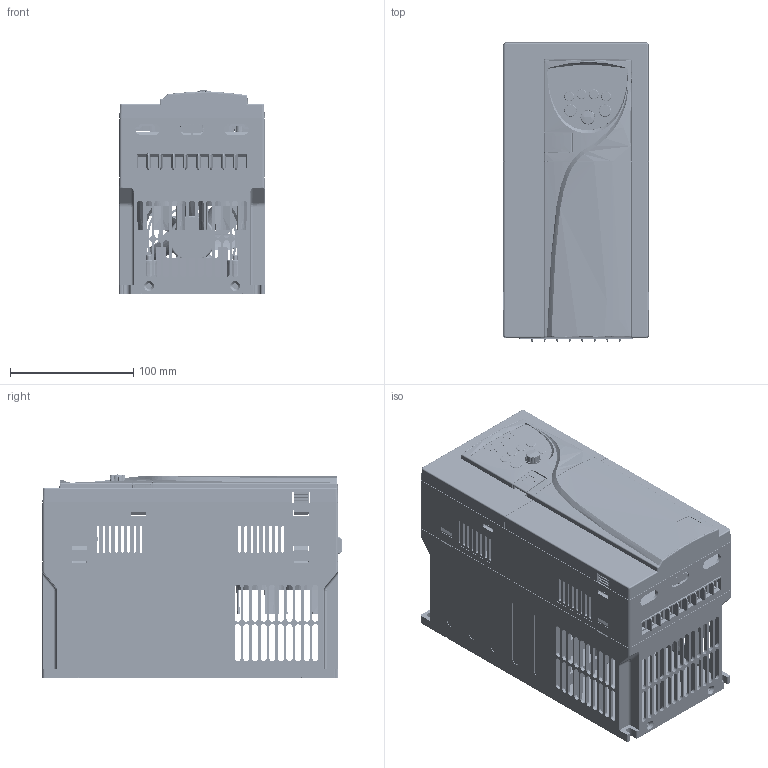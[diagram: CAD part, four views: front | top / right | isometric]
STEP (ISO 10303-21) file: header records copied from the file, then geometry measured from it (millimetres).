
FILE_DESCRIPTION(('STEP AP203'), '1');
FILE_NAME('Ïðåîáðàçîâàòåëü ÷àñòîòû _ INVENT-G15-4B', '', ('UNSPECIFIED'), ('UNSPECIFIED'), 'C3D Converter', 'C3D Toolkit', '');
FILE_SCHEMA(('CONFIG_CONTROL_DESIGN'));
Length unit declared in the file: millimetre
Products named in the file (47): Преобразователь частоты _ INVENT-G15-4B; Корпус B1; Вентилятор 80х80х25; Крышка вентилятора B1; Плата силовая B1; Основа платы силовой B1; Коннектор 22PL EEX 2x11x2.54x41; EU10-09-10.16-01; EU10-09-10.16-01_5; EU10-09-10.16-01_2; EU10-09-10.16-01_8; EU10-09-10.16-01_6; EU10-09-10.16-01_4; EU10-09-10.16-01_1; EU10-09-10.16-01_7; EU10-09-10.16-01_3; Стойка M3х41+6; Стойка М4х22+6; Корпус УМ B1; Днище; Плата управления; Основа платы управления; RL508-15A-8P; RL508-15A-3P; Клемма 4x4.8x10; Зажим 4x4.8x10_1; Контакт 4x4.8x10; Клемма 4x4.8x19; Зажим 4x4.8x19; Контакт 4x4.8x19_1; RL508-15A-2P; WH09-103-15; RJ45-8; 26PL; Дисплей; Jumper; HF46F; 6x6x83; Крышка B1; Крышка корпуса B1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
Assembly tree (64 placements, depth 6):
  Преобразователь частоты _ INVENT-G15-4B
    Корпус B1
    Вентилятор 80х80х25
    Крышка вентилятора B1
    Плата силовая B1
      Основа платы силовой B1
      Коннектор 22PL EEX 2x11x2.54x41
      EU10-09-10.16-01
        EU10-09-10.16-01
        EU10-09-10.16-01_5
        EU10-09-10.16-01_2
        EU10-09-10.16-01_8
        EU10-09-10.16-01_6
        EU10-09-10.16-01_4
        EU10-09-10.16-01_1
        EU10-09-10.16-01_7
        EU10-09-10.16-01_3
    Стойка M3х41+6
    Стойка М4х22+6  x2
    Корпус УМ B1
    Днище
    Плата управления
      Основа платы управления
      RL508-15A-8P
        RL508-15A-3P  x2
          RL508-15A-3P
          Клемма 4x4.8x10
            Зажим 4x4.8x10_1
            Контакт 4x4.8x10
          Клемма 4x4.8x19
            Зажим 4x4.8x19
            Контакт 4x4.8x19_1
        RL508-15A-2P
          RL508-15A-2P
          Клемма 4x4.8x10  x2
            Зажим 4x4.8x10_1
            Контакт 4x4.8x10
          Клемма 4x4.8x19  x2
            Зажим 4x4.8x19
            Контакт 4x4.8x19_1
      WH09-103-15
      RJ45-8
      26PL
      Дисплей
      Jumper  x4
      HF46F
      6x6x83  x6
    Крышка B1
      Крышка корпуса B1
      Крышка клемм B1
      Заглушка RJ45
      Панель с кнопками
      Регулятор
Bounding box: 118.01 x 243.2 x 164.78 mm (x, y, z)
Volume: 425548.7 mm3; surface area: 733578.1 mm2
Topology: 72 solids, 84 shells, 11661 faces, 31826 edges, 20818 vertices
Faces by surface type: plane 8541, cylinder 1967, bspline 648, torus 254, cone 228, sphere 23
Full cylindrical faces by diameter (mm): 0.4 x5, 0.45 x14, 0.76 x1, 0.8 x5, 1 x9, 1.2 x35, 1.5 x2, 2 x34, 2.3 x1, 2.5 x4, 2.6 x16, 2.9 x16, 3 x13, 3.2 x2, 3.3 x13, 3.4 x3, 3.6 x16, 3.8 x16, 4 x2, 4.2 x8, 4.5 x8, 4.6 x4, 5.6 x4, 6 x1, 6.5 x9, 7 x11, 8 x2, 9 x11, 9.1 x9, 9.2 x6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
Entity records: 432069 total; most frequent: CARTESIAN_POINT 122755, ORIENTED_EDGE 50618, DIRECTION 42324, EDGE_CURVE 25359, LINE 18740, VECTOR 18740, VERTEX_POINT 16773, AXIS2_PLACEMENT_3D 11792
